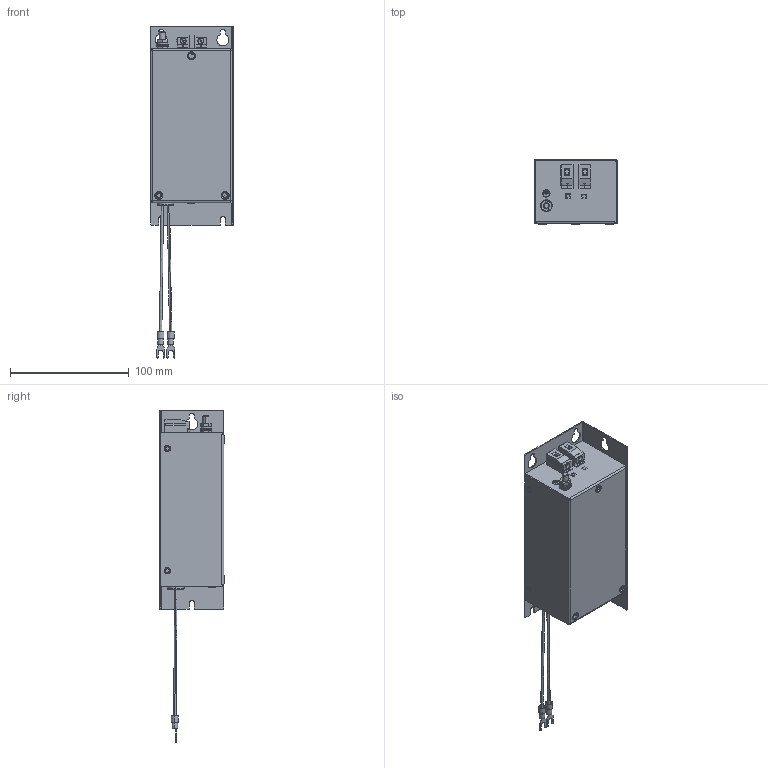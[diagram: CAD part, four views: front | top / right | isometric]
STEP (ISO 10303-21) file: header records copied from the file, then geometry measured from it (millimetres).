
FILE_DESCRIPTION (( 'STEP AP214' ), '1' );
FILE_NAME ('EFR-EFF-1A-11A.STEP', '2026-01-14T07:42:55', ( '' ), ( '' ), 'SwSTEP 2.0', 'SolidWorks 2025', '' );
FILE_SCHEMA (( 'AUTOMOTIVE_DESIGN' ));
Length unit declared in the file: millimetre
Products named in the file (31): BARREL ID 4.5.stp; 1000-501 101225.Harness1_1.stp; pcb 1A.stp; CAP GEN.stp; 1000-501 body.stp; IFI 505 - 42, FHSBMBR.stp; ISO 7045 - M5 x 16 - 4.8 - Z.stp; MPT410.stp; 1000-501.stp; BS 4464 - 5.35.stp; T2620 CF195A.stp; 68NF Y2.stp; 1000-501 101225.Harness7_1.stp; FH-M4-10Z.stp; ISO 4036 - M5.stp; ISO 7091 - ST 5 - 100 HV.stp; AETKS-M4-2.5ZI-PennEngineering-3D-12-04-2025.stp; 1000-501 101225.Harness1.stp; #6 Terminal Ring 22 - 18 AWG.stp; 3240034_01.stp; 1000-501 101225.Harness8_1.stp; ISO 4035 - M3.5.stp; PCB Assembly.stp; 3240034.stp; Gromm ID7.00.stp; 1A_update_10JN26.stp; EFR-EFF-1A-11A; T5818A COIL.stp; 3240034_02.stp; 1000-501 101225.Harness8.stp; 1000-501 101225.Harness7.stp
Assembly tree (43 placements, depth 4):
  EFR-EFF-1A-11A
    1A_update_10JN26.stp
      3240034.stp  x2
        3240034_01.stp
        3240034_02.stp
      1000-501 101225.Harness1.stp
        1000-501 101225.Harness1_1.stp
      1000-501 101225.Harness7.stp
        1000-501 101225.Harness7_1.stp
      PCB Assembly.stp
        pcb 1A.stp
        T5818A COIL.stp
        CAP GEN.stp  x2
        68NF Y2.stp  x2
        T2620 CF195A.stp
      1000-501 101225.Harness8.stp
        1000-501 101225.Harness8_1.stp
      1000-501 body.stp
      1000-501.stp
      AETKS-M4-2.5ZI-PennEngineering-3D-12-04-2025.stp  x3
      MPT410.stp  x2
      ISO 7045 - M5 x 16 - 4.8 - Z.stp
      ISO 4036 - M5.stp  x2
      ISO 7091 - ST 5 - 100 HV.stp  x2
      BS 4464 - 5.35.stp
      Gromm ID7.00.stp
      IFI 505 - 42, FHSBMBR.stp  x4
      FH-M4-10Z.stp
      BARREL ID 4.5.stp  x2
      #6 Terminal Ring 22 - 18 AWG.stp
      ISO 4035 - M3.5.stp  x2
Bounding box: 70.42 x 54.46 x 280.02 mm (x, y, z)
Volume: 140232.5 mm3; surface area: 155527.2 mm2
Topology: 85 solids, 119 shells, 3158 faces, 7759 edges, 4824 vertices
Faces by surface type: plane 1451, cylinder 709, torus 432, bspline 430, cone 134, sphere 2
Full cylindrical faces by diameter (mm): 4.8 x3
Entity records: 65681 total; most frequent: CARTESIAN_POINT 16120, ORIENTED_EDGE 10060, DIRECTION 9862, EDGE_CURVE 5044, AXIS2_PLACEMENT_3D 3700, VERTEX_POINT 3051, VECTOR 2462, LINE 2462
